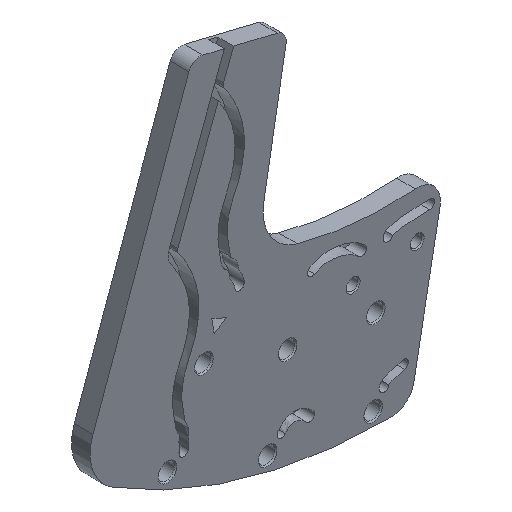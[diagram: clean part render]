
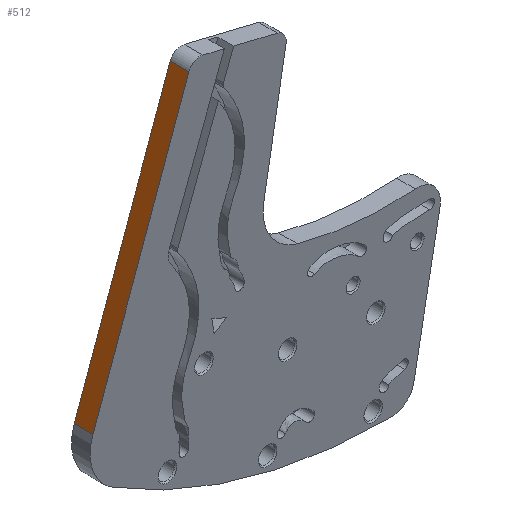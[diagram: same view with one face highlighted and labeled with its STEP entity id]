
A CAD part, isometric view. The second image highlights one B-rep face of the part: STEP entity #512.
In plain terms, the highlighted planar face has unit normal (-0.941, 0, 0.34).
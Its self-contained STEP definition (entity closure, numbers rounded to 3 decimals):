
#236=FACE_OUTER_BOUND('',#1841,.T.);
#512=ADVANCED_FACE('',(#236),#799,.F.);
#799=PLANE('',#5543);
#1000=LINE('',#8000,#1265);
#1007=LINE('',#8218,#1272);
#1051=LINE('',#9375,#1326);
#1052=LINE('',#9376,#1327);
#1265=VECTOR('',#5822,1.);
#1272=VECTOR('',#5859,1.);
#1326=VECTOR('',#6001,1.);
#1327=VECTOR('',#6002,1.);
#1841=EDGE_LOOP('',(#2504,#2505,#2506,#2507));
#2504=ORIENTED_EDGE('',*,*,#4407,.F.);
#2505=ORIENTED_EDGE('',*,*,#4525,.T.);
#2506=ORIENTED_EDGE('',*,*,#4436,.T.);
#2507=ORIENTED_EDGE('',*,*,#4526,.T.);
#3883=VERTEX_POINT('',#7999);
#3884=VERTEX_POINT('',#8001);
#3912=VERTEX_POINT('',#8219);
#3913=VERTEX_POINT('',#8220);
#4407=EDGE_CURVE('',#3883,#3884,#1000,.T.);
#4436=EDGE_CURVE('',#3912,#3913,#1007,.T.);
#4525=EDGE_CURVE('',#3883,#3912,#1051,.T.);
#4526=EDGE_CURVE('',#3913,#3884,#1052,.T.);
#5543=AXIS2_PLACEMENT_3D('',#9377,#6003,#6004);
#5822=DIRECTION('',(0.339,0.,0.941));
#5859=DIRECTION('',(0.339,0.,0.941));
#6001=DIRECTION('',(0.,-1.,0.));
#6002=DIRECTION('',(0.,1.,0.));
#6003=DIRECTION('',(0.941,0.,-0.339));
#6004=DIRECTION('',(0.339,0.,0.941));
#7999=CARTESIAN_POINT('',(70.764,-453.,-219.554));
#8000=CARTESIAN_POINT('',(65.474,-453.,-234.211));
#8001=CARTESIAN_POINT('',(111.83,-453.,-105.767));
#8218=CARTESIAN_POINT('',(65.474,-461.,-234.211));
#8219=CARTESIAN_POINT('',(70.764,-461.,-219.554));
#8220=CARTESIAN_POINT('',(111.83,-461.,-105.767));
#9375=CARTESIAN_POINT('',(70.764,-453.,-219.554));
#9376=CARTESIAN_POINT('',(111.83,-453.,-105.767));
#9377=CARTESIAN_POINT('',(65.474,-453.,-234.211));
